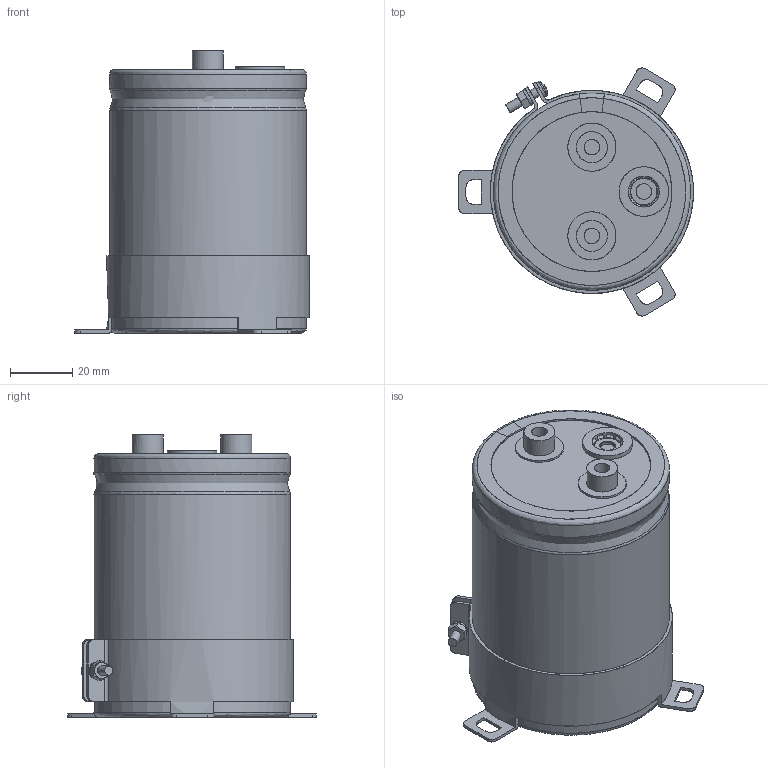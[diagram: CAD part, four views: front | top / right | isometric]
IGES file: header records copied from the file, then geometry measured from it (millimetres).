
Start section: JAMA-IS VERSION  1.0
Bounding box: 75.75 x 80.01 x 91 mm (x, y, z)
Surface area: 72074 mm2 (no closed solid volume)
Topology: 0 solids, 0 shells, 259 faces, 4436 edges, 4409 vertices
Faces by surface type: bspline 259
